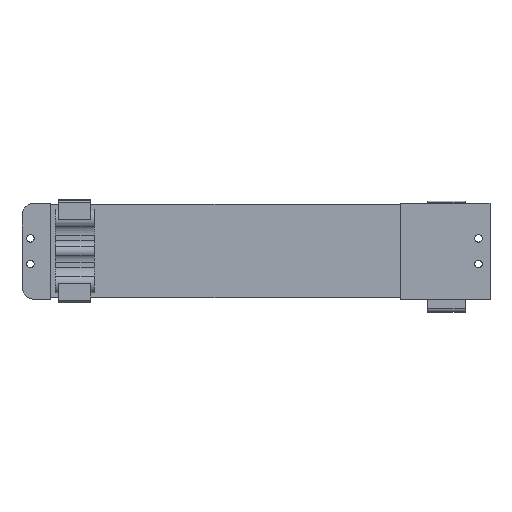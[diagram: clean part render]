
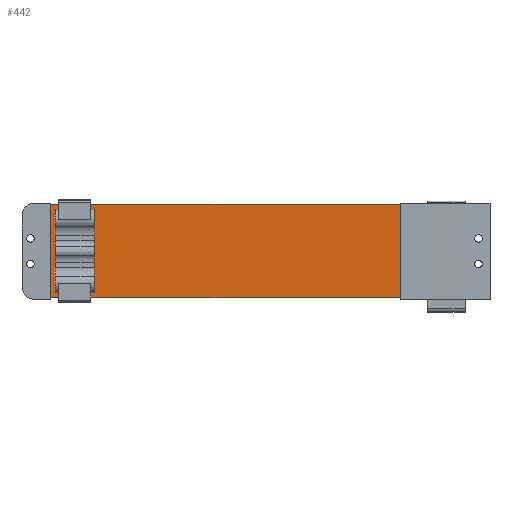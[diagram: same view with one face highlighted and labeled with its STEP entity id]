
A CAD part, front view. The second image highlights one B-rep face of the part: STEP entity #442.
In plain terms, the highlighted planar face has unit normal (0, -1, 0).
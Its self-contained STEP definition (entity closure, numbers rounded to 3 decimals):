
#442 = ADVANCED_FACE( '', ( #968 ), #969, .F. );
#968 = FACE_OUTER_BOUND( '', #1634, .T. );
#969 = PLANE( '', #1635 );
#1634 = EDGE_LOOP( '', ( #2674, #2675, #2676, #2677 ) );
#1635 = AXIS2_PLACEMENT_3D( '', #2678, #2679, #2680 );
#2674 = ORIENTED_EDGE( '', *, *, #4331, .T. );
#2675 = ORIENTED_EDGE( '', *, *, #4332, .F. );
#2676 = ORIENTED_EDGE( '', *, *, #4333, .F. );
#2677 = ORIENTED_EDGE( '', *, *, #4334, .T. );
#2678 = CARTESIAN_POINT( '', ( 554.25, 11.8, 73. ) );
#2679 = DIRECTION( '', ( 0., 1., 0. ) );
#2680 = DIRECTION( '', ( 0., 0., 1. ) );
#4331 = EDGE_CURVE( '', #5306, #5307, #5308, .T. );
#4332 = EDGE_CURVE( '', #5309, #5307, #5310, .T. );
#4333 = EDGE_CURVE( '', #5311, #5309, #5312, .T. );
#4334 = EDGE_CURVE( '', #5311, #5306, #5313, .T. );
#5306 = VERTEX_POINT( '', #6886 );
#5307 = VERTEX_POINT( '', #6887 );
#5308 = LINE( '', #6888, #6889 );
#5309 = VERTEX_POINT( '', #6890 );
#5310 = LINE( '', #6891, #6892 );
#5311 = VERTEX_POINT( '', #6893 );
#5312 = LINE( '', #6894, #6895 );
#5313 = LINE( '', #6896, #6897 );
#6886 = CARTESIAN_POINT( '', ( 0., 11.8, 73. ) );
#6887 = CARTESIAN_POINT( '', ( 0., 11.8, -73. ) );
#6888 = CARTESIAN_POINT( '', ( 0., 11.8, 73. ) );
#6889 = VECTOR( '', #8340, 1000. );
#6890 = CARTESIAN_POINT( '', ( 554.25, 11.8, -73. ) );
#6891 = CARTESIAN_POINT( '', ( 554.25, 11.8, -73. ) );
#6892 = VECTOR( '', #8341, 1000. );
#6893 = CARTESIAN_POINT( '', ( 554.25, 11.8, 73. ) );
#6894 = CARTESIAN_POINT( '', ( 554.25, 11.8, 73. ) );
#6895 = VECTOR( '', #8342, 1000. );
#6896 = CARTESIAN_POINT( '', ( 554.25, 11.8, 73. ) );
#6897 = VECTOR( '', #8343, 1000. );
#8340 = DIRECTION( '', ( 0., 0., -1. ) );
#8341 = DIRECTION( '', ( -1., 0., 0. ) );
#8342 = DIRECTION( '', ( 0., 0., -1. ) );
#8343 = DIRECTION( '', ( -1., 0., 0. ) );
